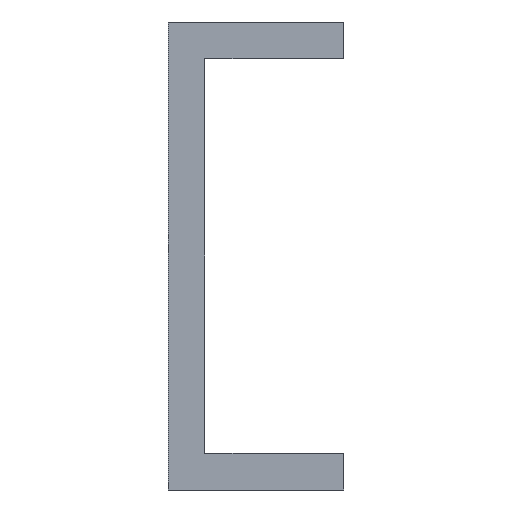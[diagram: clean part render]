
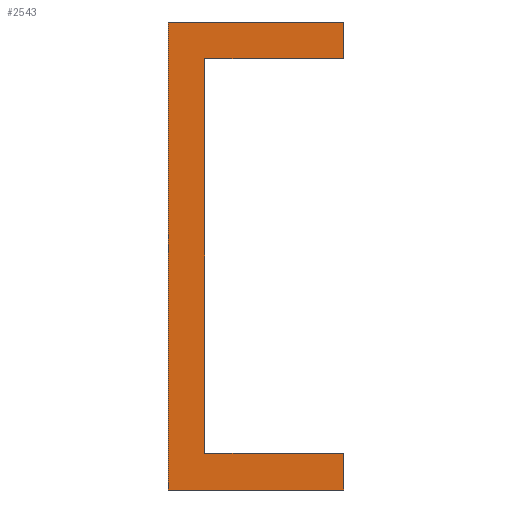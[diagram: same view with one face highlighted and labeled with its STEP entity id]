
A CAD part, front view. The second image highlights one B-rep face of the part: STEP entity #2543.
In plain terms, the highlighted planar face has unit normal (0, -1, 0).
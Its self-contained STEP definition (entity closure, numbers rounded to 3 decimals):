
#34 = ORIENTED_EDGE ( 'NONE', *, *, #1896, .F. ) ;
#166 = ORIENTED_EDGE ( 'NONE', *, *, #8441, .T. ) ;
#272 = CARTESIAN_POINT ( 'NONE',  ( 10.75, 0., 0. ) ) ;
#299 = CARTESIAN_POINT ( 'NONE',  ( -1.25, 0., -16. ) ) ;
#446 = PLANE ( 'NONE',  #3995 ) ;
#768 = LINE ( 'NONE', #272, #9258 ) ;
#817 = DIRECTION ( 'NONE',  ( 0., 0., 1. ) ) ;
#1380 = CARTESIAN_POINT ( 'NONE',  ( 1.25, 0., 13.5 ) ) ;
#1411 = LINE ( 'NONE', #5097, #3384 ) ;
#1675 = VECTOR ( 'NONE', #6415, 1000. ) ;
#1687 = DIRECTION ( 'NONE',  ( -1., 0., 0. ) ) ;
#1792 = VERTEX_POINT ( 'NONE', #2610 ) ;
#1896 = EDGE_CURVE ( 'NONE', #8157, #7486, #1411, .T. ) ;
#1969 = FACE_OUTER_BOUND ( 'NONE', #3412, .T. ) ;
#2004 = DIRECTION ( 'NONE',  ( 0., 0., 1. ) ) ;
#2092 = ORIENTED_EDGE ( 'NONE', *, *, #3241, .F. ) ;
#2207 = ORIENTED_EDGE ( 'NONE', *, *, #5404, .F. ) ;
#2215 = EDGE_CURVE ( 'NONE', #7105, #9141, #7204, .T. ) ;
#2540 = CARTESIAN_POINT ( 'NONE',  ( 0., 0., 16. ) ) ;
#2543 = ADVANCED_FACE ( 'NONE', ( #1969 ), #446, .F. ) ;
#2579 = CARTESIAN_POINT ( 'NONE',  ( 0., 0., -13.5 ) ) ;
#2610 = CARTESIAN_POINT ( 'NONE',  ( -1.25, 0., 16. ) ) ;
#2618 = ORIENTED_EDGE ( 'NONE', *, *, #7125, .F. ) ;
#2659 = DIRECTION ( 'NONE',  ( 0., 1., 0. ) ) ;
#2826 = VERTEX_POINT ( 'NONE', #8942 ) ;
#3196 = CARTESIAN_POINT ( 'NONE',  ( 1.25, 0., -13.5 ) ) ;
#3241 = EDGE_CURVE ( 'NONE', #2826, #9141, #6625, .T. ) ;
#3384 = VECTOR ( 'NONE', #3649, 1000. ) ;
#3412 = EDGE_LOOP ( 'NONE', ( #166, #8980, #2092, #7728, #2618, #5150, #2207, #34 ) ) ;
#3649 = DIRECTION ( 'NONE',  ( 0., 0., -1. ) ) ;
#3709 = VERTEX_POINT ( 'NONE', #6710 ) ;
#3995 = AXIS2_PLACEMENT_3D ( 'NONE', #4179, #2659, #5668 ) ;
#4179 = CARTESIAN_POINT ( 'NONE',  ( 0., 0., 0. ) ) ;
#4391 = CARTESIAN_POINT ( 'NONE',  ( 10.75, 0., -16. ) ) ;
#5091 = LINE ( 'NONE', #6520, #8807 ) ;
#5097 = CARTESIAN_POINT ( 'NONE',  ( 10.75, 0., 0. ) ) ;
#5150 = ORIENTED_EDGE ( 'NONE', *, *, #8018, .F. ) ;
#5404 = EDGE_CURVE ( 'NONE', #7486, #7203, #7508, .T. ) ;
#5668 = DIRECTION ( 'NONE',  ( 0., 0., 1. ) ) ;
#5875 = CARTESIAN_POINT ( 'NONE',  ( 10.75, 0., -13.5 ) ) ;
#5952 = CARTESIAN_POINT ( 'NONE',  ( 0., 0., -16. ) ) ;
#6415 = DIRECTION ( 'NONE',  ( -1., 0., 0. ) ) ;
#6520 = CARTESIAN_POINT ( 'NONE',  ( -1.25, 0., 0. ) ) ;
#6625 = LINE ( 'NONE', #7743, #6845 ) ;
#6680 = DIRECTION ( 'NONE',  ( -1., 0., 0. ) ) ;
#6710 = CARTESIAN_POINT ( 'NONE',  ( 10.75, 0., 16. ) ) ;
#6845 = VECTOR ( 'NONE', #1687, 1000. ) ;
#6965 = VECTOR ( 'NONE', #817, 1000. ) ;
#7105 = VERTEX_POINT ( 'NONE', #3196 ) ;
#7125 = EDGE_CURVE ( 'NONE', #1792, #3709, #8825, .T. ) ;
#7203 = VERTEX_POINT ( 'NONE', #299 ) ;
#7204 = LINE ( 'NONE', #8946, #6965 ) ;
#7486 = VERTEX_POINT ( 'NONE', #4391 ) ;
#7508 = LINE ( 'NONE', #5952, #8816 ) ;
#7718 = DIRECTION ( 'NONE',  ( 0., 0., 1. ) ) ;
#7728 = ORIENTED_EDGE ( 'NONE', *, *, #8240, .T. ) ;
#7743 = CARTESIAN_POINT ( 'NONE',  ( 0., 0., 13.5 ) ) ;
#7749 = DIRECTION ( 'NONE',  ( 1., 0., 0. ) ) ;
#8018 = EDGE_CURVE ( 'NONE', #7203, #1792, #5091, .T. ) ;
#8157 = VERTEX_POINT ( 'NONE', #5875 ) ;
#8240 = EDGE_CURVE ( 'NONE', #2826, #3709, #768, .T. ) ;
#8441 = EDGE_CURVE ( 'NONE', #8157, #7105, #8895, .T. ) ;
#8807 = VECTOR ( 'NONE', #2004, 1000. ) ;
#8816 = VECTOR ( 'NONE', #6680, 1000. ) ;
#8825 = LINE ( 'NONE', #2540, #9156 ) ;
#8895 = LINE ( 'NONE', #2579, #1675 ) ;
#8942 = CARTESIAN_POINT ( 'NONE',  ( 10.75, 0., 13.5 ) ) ;
#8946 = CARTESIAN_POINT ( 'NONE',  ( 1.25, 0., 0. ) ) ;
#8980 = ORIENTED_EDGE ( 'NONE', *, *, #2215, .T. ) ;
#9141 = VERTEX_POINT ( 'NONE', #1380 ) ;
#9156 = VECTOR ( 'NONE', #7749, 1000. ) ;
#9258 = VECTOR ( 'NONE', #7718, 1000. ) ;
